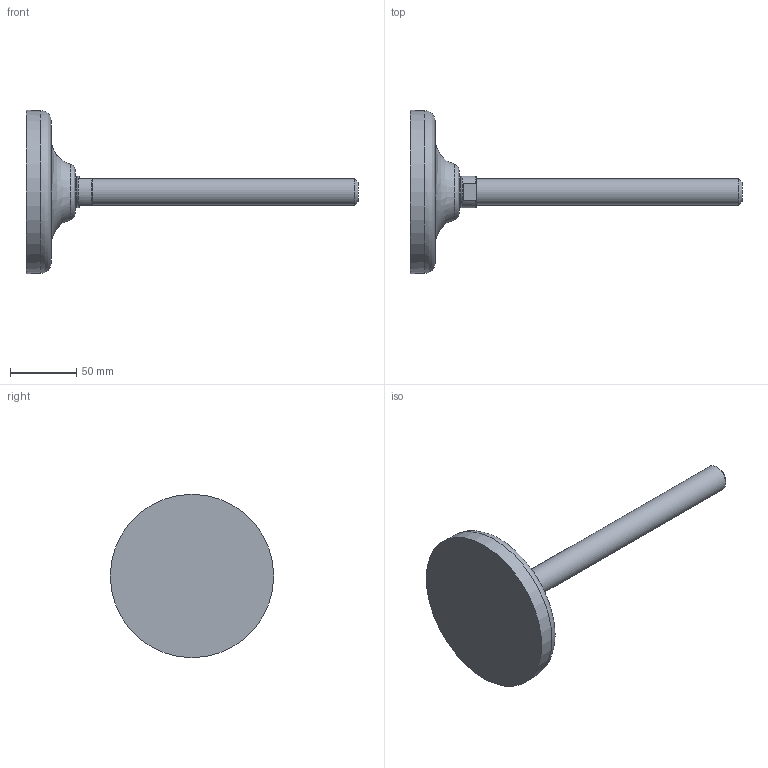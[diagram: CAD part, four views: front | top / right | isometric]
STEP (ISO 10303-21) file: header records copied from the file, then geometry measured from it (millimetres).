
FILE_DESCRIPTION(('STEP AP203'),'2;1');
FILE_NAME('12858.stp','2015-07-01T10:58:42',(''),(''),'2008.1.107','THINKDESIGN','');
FILE_SCHEMA(('CONFIG_CONTROL_DESIGN'));
Length unit declared in the file: millimetre
Bounding box: 250 x 123 x 123 mm (x, y, z)
Volume: 322915.4 mm3; surface area: 46699.7 mm2
Topology: 4 solids, 4 shells, 27 faces, 62 edges, 44 vertices
Faces by surface type: plane 13, bspline 11, cylinder 3
Full cylindrical faces by diameter (mm): 20 x1, 24 x2
Entity records: 2035 total; most frequent: CARTESIAN_POINT 1321, DIRECTION 135, ORIENTED_EDGE 124, EDGE_CURVE 62, AXIS2_PLACEMENT_3D 61, CIRCLE 45, VERTEX_POINT 44, EDGE_LOOP 28
